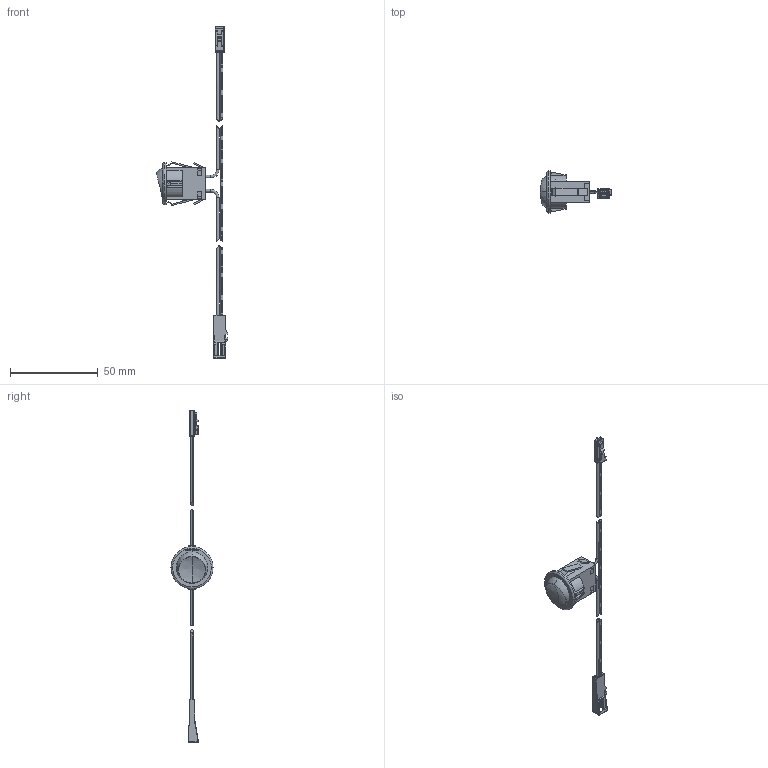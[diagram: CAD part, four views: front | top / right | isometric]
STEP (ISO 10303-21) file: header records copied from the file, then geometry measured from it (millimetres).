
FILE_DESCRIPTION (( 'STEP AP203' ), '1' );
FILE_NAME ('Einbauwippschalter_24.STEP', '2024-12-03T07:35:18', ( '' ), ( '' ), 'SwSTEP 2.0', 'SolidWorks 2023', '' );
FILE_SCHEMA (( 'CONFIG_CONTROL_DESIGN' ));
Length unit declared in the file: millimetre
Products named in the file (5): M1_F_Buchse_schwarz_MWI; 1676801_Pr1288_Wippschalter_fuer_Einrastbefestigung_sw_Standard Kragen rund; M1_Stecker_schwarz_MWI; Einbauwippschalter_24; Leitung H03 VH-F  2x0,34 mm² sw mit Mark_MWI_Links mit abzweigung für Wippschalter kurz
Assembly tree (4 placements, depth 2):
  Einbauwippschalter_24
    Leitung H03 VH-F  2x0,34 mm² sw mit Mark_MWI_Links mit abzweigung für Wippschalter kurz
    1676801_Pr1288_Wippschalter_fuer_Einrastbefestigung_sw_Standard Kragen rund
    M1_Stecker_schwarz_MWI
    M1_F_Buchse_schwarz_MWI
Bounding box: 40.67 x 24 x 189.5 mm (x, y, z)
Volume: 7753.2 mm3; surface area: 6819 mm2
Topology: 10 solids, 10 shells, 720 faces, 1774 edges, 1045 vertices
Faces by surface type: plane 349, cylinder 245, sphere 53, torus 48, bspline 25
Entity records: 21962 total; most frequent: CARTESIAN_POINT 4861, DIRECTION 3524, ORIENTED_EDGE 3418, EDGE_CURVE 1709, AXIS2_PLACEMENT_3D 1225, LINE 1074, VECTOR 1074, VERTEX_POINT 1040
